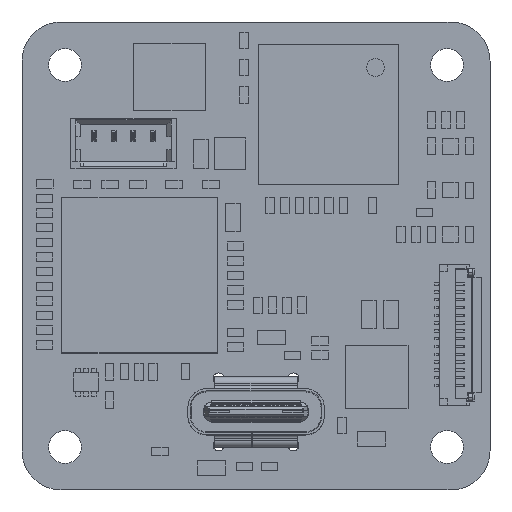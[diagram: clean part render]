
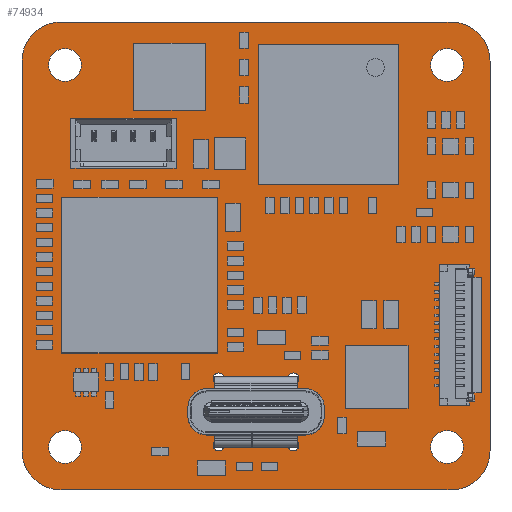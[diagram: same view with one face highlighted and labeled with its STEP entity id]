
A CAD part, top view. The second image highlights one B-rep face of the part: STEP entity #74934.
In plain terms, the highlighted planar face has unit normal (0, 0, 1).
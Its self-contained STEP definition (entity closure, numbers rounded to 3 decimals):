
#74067 = VERTEX_POINT('',#74068);
#74068 = CARTESIAN_POINT('',(0.,2.5,0.));
#74074 = EDGE_CURVE('',#74067,#74075,#74077,.T.);
#74075 = VERTEX_POINT('',#74076);
#74076 = CARTESIAN_POINT('',(-0.006,27.5,0.));
#74077 = LINE('',#74078,#74079);
#74078 = CARTESIAN_POINT('',(0.,2.5,0.));
#74079 = VECTOR('',#74080,1.);
#74080 = DIRECTION('',(0.,1.,0.));
#74105 = EDGE_CURVE('',#74075,#74106,#74108,.T.);
#74106 = VERTEX_POINT('',#74107);
#74107 = CARTESIAN_POINT('',(2.5,30.,0.));
#74108 = CIRCLE('',#74109,2.496);
#74109 = AXIS2_PLACEMENT_3D('',#74110,#74111,#74112);
#74110 = CARTESIAN_POINT('',(2.49,27.504,0.));
#74111 = DIRECTION('',(0.,0.,-1.));
#74112 = DIRECTION('',(-1.,-0.002,-0.));
#74138 = EDGE_CURVE('',#74106,#74139,#74141,.T.);
#74139 = VERTEX_POINT('',#74140);
#74140 = CARTESIAN_POINT('',(27.5,30.,0.));
#74141 = LINE('',#74142,#74143);
#74142 = CARTESIAN_POINT('',(2.5,30.,0.));
#74143 = VECTOR('',#74144,1.);
#74144 = DIRECTION('',(1.,0.,0.));
#74169 = EDGE_CURVE('',#74139,#74170,#74172,.T.);
#74170 = VERTEX_POINT('',#74171);
#74171 = CARTESIAN_POINT('',(30.,27.5,0.));
#74172 = CIRCLE('',#74173,2.499);
#74173 = AXIS2_PLACEMENT_3D('',#74174,#74175,#74176);
#74174 = CARTESIAN_POINT('',(27.501,27.501,0.));
#74175 = DIRECTION('',(0.,0.,-1.));
#74176 = DIRECTION('',(0.,1.,0.));
#74202 = EDGE_CURVE('',#74170,#74203,#74205,.T.);
#74203 = VERTEX_POINT('',#74204);
#74204 = CARTESIAN_POINT('',(30.,2.5,0.));
#74205 = LINE('',#74206,#74207);
#74206 = CARTESIAN_POINT('',(30.,27.5,0.));
#74207 = VECTOR('',#74208,1.);
#74208 = DIRECTION('',(0.,-1.,0.));
#74233 = EDGE_CURVE('',#74203,#74234,#74236,.T.);
#74234 = VERTEX_POINT('',#74235);
#74235 = CARTESIAN_POINT('',(27.5,0.,0.));
#74236 = CIRCLE('',#74237,2.499);
#74237 = AXIS2_PLACEMENT_3D('',#74238,#74239,#74240);
#74238 = CARTESIAN_POINT('',(27.501,2.499,0.));
#74239 = DIRECTION('',(0.,0.,-1.));
#74240 = DIRECTION('',(1.,0.,0.));
#74266 = EDGE_CURVE('',#74234,#74267,#74269,.T.);
#74267 = VERTEX_POINT('',#74268);
#74268 = CARTESIAN_POINT('',(2.5,0.,0.));
#74269 = LINE('',#74270,#74271);
#74270 = CARTESIAN_POINT('',(27.5,0.,0.));
#74271 = VECTOR('',#74272,1.);
#74272 = DIRECTION('',(-1.,0.,0.));
#74297 = EDGE_CURVE('',#74267,#74067,#74298,.T.);
#74298 = CIRCLE('',#74299,2.499);
#74299 = AXIS2_PLACEMENT_3D('',#74300,#74301,#74302);
#74300 = CARTESIAN_POINT('',(2.499,2.499,0.));
#74301 = DIRECTION('',(0.,0.,-1.));
#74302 = DIRECTION('',(0.,-1.,0.));
#74330 = VERTEX_POINT('',#74331);
#74331 = CARTESIAN_POINT('',(3.8,2.75,0.));
#74337 = EDGE_CURVE('',#74330,#74330,#74338,.T.);
#74338 = CIRCLE('',#74339,1.05);
#74339 = AXIS2_PLACEMENT_3D('',#74340,#74341,#74342);
#74340 = CARTESIAN_POINT('',(2.75,2.75,0.));
#74341 = DIRECTION('',(0.,0.,1.));
#74342 = DIRECTION('',(1.,0.,-0.));
#74363 = VERTEX_POINT('',#74364);
#74364 = CARTESIAN_POINT('',(11.58,5.,0.));
#74370 = EDGE_CURVE('',#74363,#74363,#74371,.T.);
#74371 = CIRCLE('',#74372,0.33);
#74372 = AXIS2_PLACEMENT_3D('',#74373,#74374,#74375);
#74373 = CARTESIAN_POINT('',(11.25,5.,0.));
#74374 = DIRECTION('',(0.,0.,1.));
#74375 = DIRECTION('',(1.,0.,-0.));
#74396 = VERTEX_POINT('',#74397);
#74397 = CARTESIAN_POINT('',(4.875,22.7,0.));
#74403 = EDGE_CURVE('',#74396,#74396,#74404,.T.);
#74404 = CIRCLE('',#74405,0.25);
#74405 = AXIS2_PLACEMENT_3D('',#74406,#74407,#74408);
#74406 = CARTESIAN_POINT('',(4.625,22.7,0.));
#74407 = DIRECTION('',(0.,0.,1.));
#74408 = DIRECTION('',(1.,0.,-0.));
#74429 = VERTEX_POINT('',#74430);
#74430 = CARTESIAN_POINT('',(6.125,22.7,0.));
#74436 = EDGE_CURVE('',#74429,#74429,#74437,.T.);
#74437 = CIRCLE('',#74438,0.25);
#74438 = AXIS2_PLACEMENT_3D('',#74439,#74440,#74441);
#74439 = CARTESIAN_POINT('',(5.875,22.7,0.));
#74440 = DIRECTION('',(0.,0.,1.));
#74441 = DIRECTION('',(1.,0.,-0.));
#74462 = VERTEX_POINT('',#74463);
#74463 = CARTESIAN_POINT('',(3.8,27.25,0.));
#74469 = EDGE_CURVE('',#74462,#74462,#74470,.T.);
#74470 = CIRCLE('',#74471,1.05);
#74471 = AXIS2_PLACEMENT_3D('',#74472,#74473,#74474);
#74472 = CARTESIAN_POINT('',(2.75,27.25,0.));
#74473 = DIRECTION('',(0.,0.,1.));
#74474 = DIRECTION('',(1.,0.,-0.));
#74495 = VERTEX_POINT('',#74496);
#74496 = CARTESIAN_POINT('',(8.625,22.7,0.));
#74502 = EDGE_CURVE('',#74495,#74495,#74503,.T.);
#74503 = CIRCLE('',#74504,0.25);
#74504 = AXIS2_PLACEMENT_3D('',#74505,#74506,#74507);
#74505 = CARTESIAN_POINT('',(8.375,22.7,0.));
#74506 = DIRECTION('',(0.,0.,1.));
#74507 = DIRECTION('',(1.,0.,-0.));
#74528 = VERTEX_POINT('',#74529);
#74529 = CARTESIAN_POINT('',(7.375,22.7,0.));
#74535 = EDGE_CURVE('',#74528,#74528,#74536,.T.);
#74536 = CIRCLE('',#74537,0.25);
#74537 = AXIS2_PLACEMENT_3D('',#74538,#74539,#74540);
#74538 = CARTESIAN_POINT('',(7.125,22.7,0.));
#74539 = DIRECTION('',(0.,0.,1.));
#74540 = DIRECTION('',(1.,0.,-0.));
#74561 = VERTEX_POINT('',#74562);
#74562 = CARTESIAN_POINT('',(12.95,2.85,0.));
#74568 = EDGE_CURVE('',#74561,#74561,#74569,.T.);
#74569 = CIRCLE('',#74570,0.35);
#74570 = AXIS2_PLACEMENT_3D('',#74571,#74572,#74573);
#74571 = CARTESIAN_POINT('',(12.6,2.85,0.));
#74572 = DIRECTION('',(0.,0.,1.));
#74573 = DIRECTION('',(1.,0.,-0.));
#74594 = VERTEX_POINT('',#74595);
#74595 = CARTESIAN_POINT('',(17.75,2.85,0.));
#74601 = EDGE_CURVE('',#74594,#74594,#74602,.T.);
#74602 = CIRCLE('',#74603,0.35);
#74603 = AXIS2_PLACEMENT_3D('',#74604,#74605,#74606);
#74604 = CARTESIAN_POINT('',(17.4,2.85,0.));
#74605 = DIRECTION('',(0.,0.,1.));
#74606 = DIRECTION('',(1.,0.,-0.));
#74627 = VERTEX_POINT('',#74628);
#74628 = CARTESIAN_POINT('',(28.3,2.75,0.));
#74634 = EDGE_CURVE('',#74627,#74627,#74635,.T.);
#74635 = CIRCLE('',#74636,1.05);
#74636 = AXIS2_PLACEMENT_3D('',#74637,#74638,#74639);
#74637 = CARTESIAN_POINT('',(27.25,2.75,0.));
#74638 = DIRECTION('',(0.,0.,1.));
#74639 = DIRECTION('',(1.,0.,-0.));
#74660 = VERTEX_POINT('',#74661);
#74661 = CARTESIAN_POINT('',(17.75,7.15,0.));
#74667 = EDGE_CURVE('',#74660,#74660,#74668,.T.);
#74668 = CIRCLE('',#74669,0.35);
#74669 = AXIS2_PLACEMENT_3D('',#74670,#74671,#74672);
#74670 = CARTESIAN_POINT('',(17.4,7.15,0.));
#74671 = DIRECTION('',(0.,0.,1.));
#74672 = DIRECTION('',(1.,0.,-0.));
#74693 = VERTEX_POINT('',#74694);
#74694 = CARTESIAN_POINT('',(12.95,7.15,0.));
#74700 = EDGE_CURVE('',#74693,#74693,#74701,.T.);
#74701 = CIRCLE('',#74702,0.35);
#74702 = AXIS2_PLACEMENT_3D('',#74703,#74704,#74705);
#74703 = CARTESIAN_POINT('',(12.6,7.15,0.));
#74704 = DIRECTION('',(0.,0.,1.));
#74705 = DIRECTION('',(1.,0.,-0.));
#74728 = VERTEX_POINT('',#74729);
#74729 = CARTESIAN_POINT('',(18.96,5.29,0.));
#74735 = EDGE_CURVE('',#74736,#74728,#74738,.T.);
#74736 = VERTEX_POINT('',#74737);
#74737 = CARTESIAN_POINT('',(18.96,4.71,0.));
#74738 = CIRCLE('',#74739,0.29);
#74739 = AXIS2_PLACEMENT_3D('',#74740,#74741,#74742);
#74740 = CARTESIAN_POINT('',(18.96,5.,0.));
#74741 = DIRECTION('',(0.,0.,1.));
#74742 = DIRECTION('',(0.,-1.,0.));
#74761 = VERTEX_POINT('',#74762);
#74762 = CARTESIAN_POINT('',(18.54,4.71,0.));
#74768 = EDGE_CURVE('',#74761,#74736,#74769,.T.);
#74769 = LINE('',#74770,#74771);
#74770 = CARTESIAN_POINT('',(18.54,4.71,0.));
#74771 = VECTOR('',#74772,1.);
#74772 = DIRECTION('',(1.,0.,0.));
#74799 = EDGE_CURVE('',#74800,#74761,#74802,.T.);
#74800 = VERTEX_POINT('',#74801);
#74801 = CARTESIAN_POINT('',(18.54,5.29,0.));
#74802 = CIRCLE('',#74803,0.29);
#74803 = AXIS2_PLACEMENT_3D('',#74804,#74805,#74806);
#74804 = CARTESIAN_POINT('',(18.54,5.,0.));
#74805 = DIRECTION('',(0.,0.,1.));
#74806 = DIRECTION('',(0.,1.,-0.));
#74823 = EDGE_CURVE('',#74728,#74800,#74824,.T.);
#74824 = LINE('',#74825,#74826);
#74825 = CARTESIAN_POINT('',(18.96,5.29,0.));
#74826 = VECTOR('',#74827,1.);
#74827 = DIRECTION('',(-1.,0.,0.));
#74854 = VERTEX_POINT('',#74855);
#74855 = CARTESIAN_POINT('',(28.3,27.25,0.));
#74861 = EDGE_CURVE('',#74854,#74854,#74862,.T.);
#74862 = CIRCLE('',#74863,1.05);
#74863 = AXIS2_PLACEMENT_3D('',#74864,#74865,#74866);
#74864 = CARTESIAN_POINT('',(27.25,27.25,0.));
#74865 = DIRECTION('',(0.,0.,1.));
#74866 = DIRECTION('',(1.,0.,-0.));
#74934 = ADVANCED_FACE('',(#74935,#74945,#74948,#74951,#74954,#74957,
    #74960,#74963,#74966,#74969,#74972,#74975,#74978,#74981,#74987),
  #74990,.T.);
#74935 = FACE_BOUND('',#74936,.F.);
#74936 = EDGE_LOOP('',(#74937,#74938,#74939,#74940,#74941,#74942,#74943,
    #74944));
#74937 = ORIENTED_EDGE('',*,*,#74074,.T.);
#74938 = ORIENTED_EDGE('',*,*,#74105,.T.);
#74939 = ORIENTED_EDGE('',*,*,#74138,.T.);
#74940 = ORIENTED_EDGE('',*,*,#74169,.T.);
#74941 = ORIENTED_EDGE('',*,*,#74202,.T.);
#74942 = ORIENTED_EDGE('',*,*,#74233,.T.);
#74943 = ORIENTED_EDGE('',*,*,#74266,.T.);
#74944 = ORIENTED_EDGE('',*,*,#74297,.T.);
#74945 = FACE_BOUND('',#74946,.T.);
#74946 = EDGE_LOOP('',(#74947));
#74947 = ORIENTED_EDGE('',*,*,#74337,.F.);
#74948 = FACE_BOUND('',#74949,.T.);
#74949 = EDGE_LOOP('',(#74950));
#74950 = ORIENTED_EDGE('',*,*,#74370,.F.);
#74951 = FACE_BOUND('',#74952,.T.);
#74952 = EDGE_LOOP('',(#74953));
#74953 = ORIENTED_EDGE('',*,*,#74403,.F.);
#74954 = FACE_BOUND('',#74955,.T.);
#74955 = EDGE_LOOP('',(#74956));
#74956 = ORIENTED_EDGE('',*,*,#74436,.F.);
#74957 = FACE_BOUND('',#74958,.T.);
#74958 = EDGE_LOOP('',(#74959));
#74959 = ORIENTED_EDGE('',*,*,#74469,.F.);
#74960 = FACE_BOUND('',#74961,.T.);
#74961 = EDGE_LOOP('',(#74962));
#74962 = ORIENTED_EDGE('',*,*,#74502,.F.);
#74963 = FACE_BOUND('',#74964,.T.);
#74964 = EDGE_LOOP('',(#74965));
#74965 = ORIENTED_EDGE('',*,*,#74535,.F.);
#74966 = FACE_BOUND('',#74967,.T.);
#74967 = EDGE_LOOP('',(#74968));
#74968 = ORIENTED_EDGE('',*,*,#74568,.F.);
#74969 = FACE_BOUND('',#74970,.T.);
#74970 = EDGE_LOOP('',(#74971));
#74971 = ORIENTED_EDGE('',*,*,#74601,.F.);
#74972 = FACE_BOUND('',#74973,.T.);
#74973 = EDGE_LOOP('',(#74974));
#74974 = ORIENTED_EDGE('',*,*,#74634,.F.);
#74975 = FACE_BOUND('',#74976,.T.);
#74976 = EDGE_LOOP('',(#74977));
#74977 = ORIENTED_EDGE('',*,*,#74667,.F.);
#74978 = FACE_BOUND('',#74979,.T.);
#74979 = EDGE_LOOP('',(#74980));
#74980 = ORIENTED_EDGE('',*,*,#74700,.F.);
#74981 = FACE_BOUND('',#74982,.T.);
#74982 = EDGE_LOOP('',(#74983,#74984,#74985,#74986));
#74983 = ORIENTED_EDGE('',*,*,#74735,.F.);
#74984 = ORIENTED_EDGE('',*,*,#74768,.F.);
#74985 = ORIENTED_EDGE('',*,*,#74799,.F.);
#74986 = ORIENTED_EDGE('',*,*,#74823,.F.);
#74987 = FACE_BOUND('',#74988,.T.);
#74988 = EDGE_LOOP('',(#74989));
#74989 = ORIENTED_EDGE('',*,*,#74861,.F.);
#74990 = PLANE('',#74991);
#74991 = AXIS2_PLACEMENT_3D('',#74992,#74993,#74994);
#74992 = CARTESIAN_POINT('',(0.,2.5,0.));
#74993 = DIRECTION('',(0.,-0.,1.));
#74994 = DIRECTION('',(1.,0.,0.));
